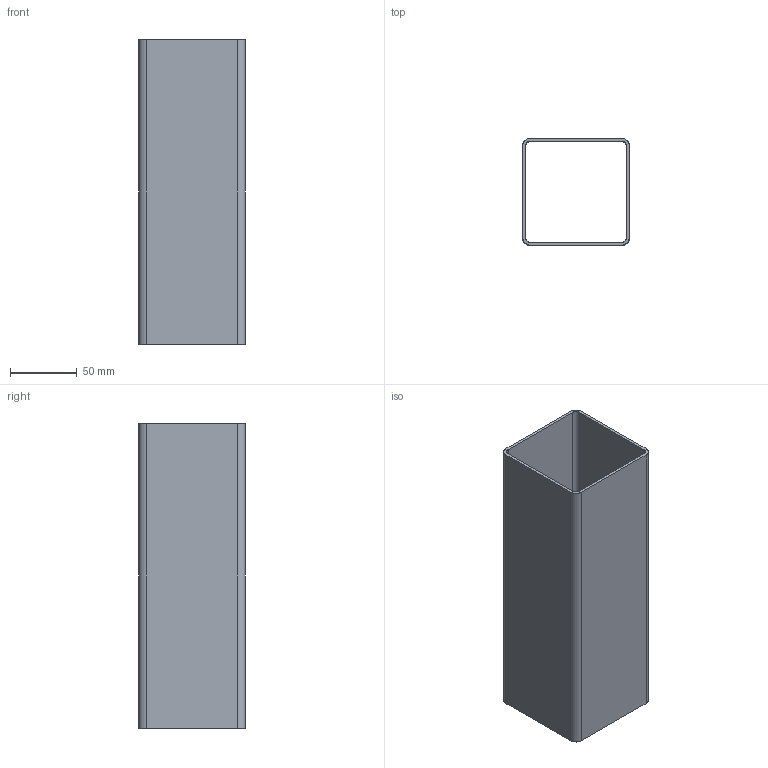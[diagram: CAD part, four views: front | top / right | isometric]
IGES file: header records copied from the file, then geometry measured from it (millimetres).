
Start section: SolidWorks IGES file using analytic representation for surfaces
Global section: file name: C:\Working\Gusset Convert\DRP-002-0000-06.IGS; native system: SolidWorks 2010; preprocessor: SolidWorks 2010; author: mbush2; date: 100624.130237; units: inch
Bounding box: 80.33 x 80.33 x 228.6 mm (x, y, z)
Surface area: 140450.7 mm2 (no closed solid volume)
Topology: 0 solids, 0 shells, 18 faces, 208 edges, 208 vertices
Faces by surface type: bspline 10, revolution 8
